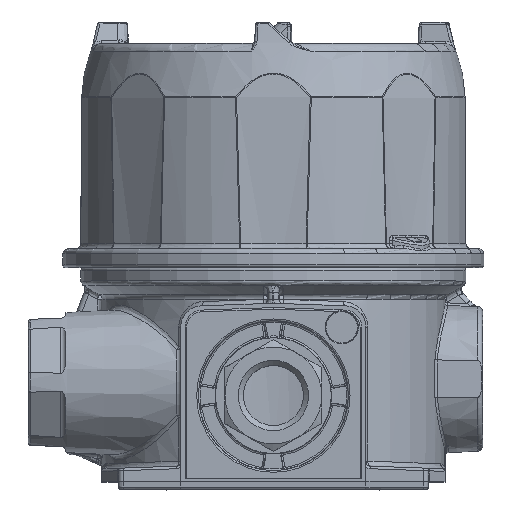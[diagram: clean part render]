
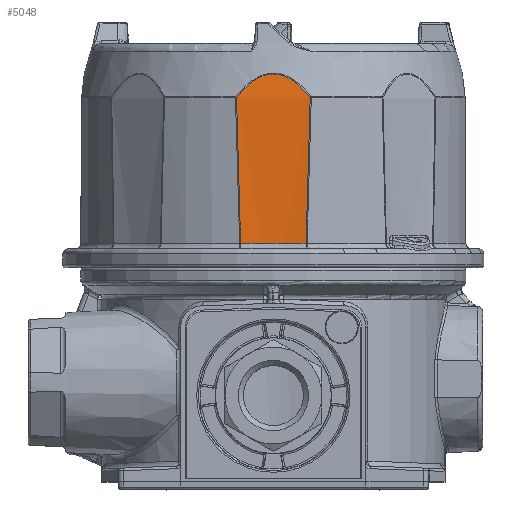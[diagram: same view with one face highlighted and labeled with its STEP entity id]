
A CAD part, top view. The second image highlights one B-rep face of the part: STEP entity #5048.
In plain terms, the highlighted conical face has half-angle 0.5 degrees and reference radius 83.16 mm.
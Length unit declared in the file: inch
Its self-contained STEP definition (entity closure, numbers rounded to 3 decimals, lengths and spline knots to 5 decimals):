
#319 = CARTESIAN_POINT ( 'NONE',  ( 0.14896, 4.81213, 2.20999 ) ) ;
#1453 = CARTESIAN_POINT ( 'NONE',  ( 0.4145, 4.0042, 2.24011 ) ) ;
#4042 = CARTESIAN_POINT ( 'NONE',  ( 0.38208, 2.87234, 2.2461 ) ) ;
#5048 = ADVANCED_FACE ( 'NONE', ( #58970 ), #19179, .F. ) ;
#5064 = CARTESIAN_POINT ( 'NONE',  ( -0.10939, 4.82751, 2.2083 ) ) ;
#5776 = VERTEX_POINT ( 'NONE', #55767 ) ;
#6223 = CARTESIAN_POINT ( 'NONE',  ( 0.31159, 4.70079, 2.22237 ) ) ;
#6720 = CARTESIAN_POINT ( 'NONE',  ( -0.42941, 4.57016, 2.23711 ) ) ;
#9966 = CARTESIAN_POINT ( 'NONE',  ( 0.38207, 2.87205, 2.24611 ) ) ;
#9982 = B_SPLINE_CURVE_WITH_KNOTS ( 'NONE', 3,
 ( #29978, #60808, #28821, #6223, #11014, #17331, #52931, #54481, #319, #72614, #41083, #18491, #41854, #35128, #66703, #59260, #41462, #11397, #5064, #59641, #29594, #53709, #77749, #54089, #23653, #65930, #35909, #60022 ),
 .UNSPECIFIED., .F., .F.,
 ( 4, 2, 2, 2, 2, 2, 2, 2, 2, 2, 2, 2, 2, 4 ),
 ( 0., 0.00336, 0.00673, 0.00841, 0.01009, 0.01177, 0.01261, 0.01345, 0.01514, 0.01682, 0.0185, 0.02018, 0.02355, 0.02691 ),
 .UNSPECIFIED. ) ;
#10451 = VERTEX_POINT ( 'NONE', #52643 ) ;
#11014 = CARTESIAN_POINT ( 'NONE',  ( 0.27897, 4.72997, 2.21911 ) ) ;
#11397 = CARTESIAN_POINT ( 'NONE',  ( -0.08794, 4.83395, 2.20759 ) ) ;
#16004 = VERTEX_POINT ( 'NONE', #6720 ) ;
#16209 = EDGE_CURVE ( 'NONE', #60632, #25727, #22585, .T. ) ;
#16491 = CARTESIAN_POINT ( 'NONE',  ( -0.38208, 2.87234, 2.2461 ) ) ;
#17331 = CARTESIAN_POINT ( 'NONE',  ( 0.22595, 4.76863, 2.21481 ) ) ;
#18491 = CARTESIAN_POINT ( 'NONE',  ( 0.05421, 4.84065, 2.20685 ) ) ;
#18631 = CARTESIAN_POINT ( 'NONE',  ( 0.38208, 2.87234, 2.2461 ) ) ;
#18886 = CARTESIAN_POINT ( 'NONE',  ( -0.39883, 3.43826, 2.24311 ) ) ;
#19179 = CONICAL_SURFACE ( 'NONE', #63386, 3.274, 0.009 ) ;
#21854 = CARTESIAN_POINT ( 'NONE',  ( 0.38206, 2.87175, 2.24611 ) ) ;
#22565 = AXIS2_PLACEMENT_3D ( 'NONE', #56982, #52211, #39198 ) ;
#22585 = B_SPLINE_CURVE_WITH_KNOTS ( 'NONE', 3,
 ( #57202, #43398, #1453, #73374 ),
 .UNSPECIFIED., .F., .F.,
 ( 4, 4 ),
 ( 0., 0.04314 ),
 .UNSPECIFIED. ) ;
#23653 = CARTESIAN_POINT ( 'NONE',  ( -0.31254, 4.69988, 2.22247 ) ) ;
#24769 = EDGE_CURVE ( 'NONE', #10451, #5776, #56651, .T. ) ;
#25532 = EDGE_CURVE ( 'NONE', #16004, #33143, #28487, .T. ) ;
#25727 = VERTEX_POINT ( 'NONE', #53630 ) ;
#27018 = CARTESIAN_POINT ( 'NONE',  ( 0.38206, 2.87145, 2.24611 ) ) ;
#28487 = B_SPLINE_CURVE_WITH_KNOTS ( 'NONE', 3,
 ( #55295, #37497, #18886, #43034 ),
 .UNSPECIFIED., .F., .F.,
 ( 4, 4 ),
 ( 0., 0.04314 ),
 .UNSPECIFIED. ) ;
#28821 = CARTESIAN_POINT ( 'NONE',  ( 0.37332, 4.63801, 2.22942 ) ) ;
#29594 = CARTESIAN_POINT ( 'NONE',  ( -0.17008, 4.8019, 2.21112 ) ) ;
#29978 = CARTESIAN_POINT ( 'NONE',  ( 0.42941, 4.57016, 2.23711 ) ) ;
#32101 = EDGE_CURVE ( 'NONE', #5776, #60632, #59718, .T. ) ;
#33143 = VERTEX_POINT ( 'NONE', #44531 ) ;
#35128 = CARTESIAN_POINT ( 'NONE',  ( 0.02129, 4.84441, 2.20643 ) ) ;
#35909 = CARTESIAN_POINT ( 'NONE',  ( -0.40219, 4.60458, 2.2332 ) ) ;
#37497 = CARTESIAN_POINT ( 'NONE',  ( -0.4145, 4.0042, 2.24011 ) ) ;
#38090 = ORIENTED_EDGE ( 'NONE', *, *, #51868, .T. ) ;
#39198 = DIRECTION ( 'NONE',  ( 0., 0., -1. ) ) ;
#41083 = CARTESIAN_POINT ( 'NONE',  ( 0.08653, 4.83432, 2.20755 ) ) ;
#41462 = CARTESIAN_POINT ( 'NONE',  ( -0.04485, 4.84258, 2.20664 ) ) ;
#41854 = CARTESIAN_POINT ( 'NONE',  ( 0.04332, 4.84226, 2.20667 ) ) ;
#43034 = CARTESIAN_POINT ( 'NONE',  ( -0.38208, 2.87234, 2.2461 ) ) ;
#43398 = CARTESIAN_POINT ( 'NONE',  ( 0.39883, 3.43826, 2.24311 ) ) ;
#44531 = CARTESIAN_POINT ( 'NONE',  ( -0.38208, 2.87234, 2.2461 ) ) ;
#47122 = ORIENTED_EDGE ( 'NONE', *, *, #60164, .T. ) ;
#48245 = CARTESIAN_POINT ( 'NONE',  ( 0., 5.201, 5.47727 ) ) ;
#51868 = EDGE_CURVE ( 'NONE', #25727, #16004, #9982, .T. ) ;
#52211 = DIRECTION ( 'NONE',  ( 0., -1., 0. ) ) ;
#52643 = CARTESIAN_POINT ( 'NONE',  ( -0.38206, 2.87145, 2.24611 ) ) ;
#52931 = CARTESIAN_POINT ( 'NONE',  ( 0.20759, 4.78065, 2.21348 ) ) ;
#53630 = CARTESIAN_POINT ( 'NONE',  ( 0.42941, 4.57016, 2.23711 ) ) ;
#53709 = CARTESIAN_POINT ( 'NONE',  ( -0.20819, 4.78027, 2.21352 ) ) ;
#54089 = CARTESIAN_POINT ( 'NONE',  ( -0.28008, 4.72908, 2.21921 ) ) ;
#54481 = CARTESIAN_POINT ( 'NONE',  ( 0.16907, 4.80243, 2.21107 ) ) ;
#54745 = ORIENTED_EDGE ( 'NONE', *, *, #24769, .T. ) ;
#55295 = CARTESIAN_POINT ( 'NONE',  ( -0.42941, 4.57016, 2.23711 ) ) ;
#55767 = CARTESIAN_POINT ( 'NONE',  ( 0.38206, 2.87145, 2.24611 ) ) ;
#56651 = CIRCLE ( 'NONE', #22565, 3.25367 ) ;
#56982 = CARTESIAN_POINT ( 'NONE',  ( 0., 2.87145, 5.47727 ) ) ;
#57202 = CARTESIAN_POINT ( 'NONE',  ( 0.38208, 2.87234, 2.2461 ) ) ;
#58970 = FACE_OUTER_BOUND ( 'NONE', #77520, .T. ) ;
#59260 = CARTESIAN_POINT ( 'NONE',  ( -0.02303, 4.84485, 2.20639 ) ) ;
#59641 = CARTESIAN_POINT ( 'NONE',  ( -0.15039, 4.81148, 2.21007 ) ) ;
#59718 = B_SPLINE_CURVE_WITH_KNOTS ( 'NONE', 3,
 ( #27018, #21854, #9966, #4042 ),
 .UNSPECIFIED., .F., .F.,
 ( 4, 4 ),
 ( 0., 0.00002 ),
 .UNSPECIFIED. ) ;
#60022 = CARTESIAN_POINT ( 'NONE',  ( -0.42941, 4.57016, 2.23711 ) ) ;
#60164 = EDGE_CURVE ( 'NONE', #33143, #10451, #71809, .T. ) ;
#60632 = VERTEX_POINT ( 'NONE', #18631 ) ;
#60808 = CARTESIAN_POINT ( 'NONE',  ( 0.40211, 4.60468, 2.23319 ) ) ;
#61520 = ORIENTED_EDGE ( 'NONE', *, *, #16209, .T. ) ;
#62218 = CARTESIAN_POINT ( 'NONE',  ( -0.38207, 2.87205, 2.24611 ) ) ;
#63283 = ORIENTED_EDGE ( 'NONE', *, *, #32101, .T. ) ;
#63386 = AXIS2_PLACEMENT_3D ( 'NONE', #48245, #65254, #77061 ) ;
#65254 = DIRECTION ( 'NONE',  ( 0., 1., 0. ) ) ;
#65930 = CARTESIAN_POINT ( 'NONE',  ( -0.37362, 4.63765, 2.22946 ) ) ;
#66703 = CARTESIAN_POINT ( 'NONE',  ( 0.01011, 4.84494, 2.20638 ) ) ;
#67045 = CARTESIAN_POINT ( 'NONE',  ( -0.38206, 2.87145, 2.24611 ) ) ;
#68901 = CARTESIAN_POINT ( 'NONE',  ( -0.38206, 2.87175, 2.24611 ) ) ;
#69925 = ORIENTED_EDGE ( 'NONE', *, *, #25532, .T. ) ;
#71809 = B_SPLINE_CURVE_WITH_KNOTS ( 'NONE', 3,
 ( #16491, #62218, #68901, #67045 ),
 .UNSPECIFIED., .F., .F.,
 ( 4, 4 ),
 ( 0., 0.00002 ),
 .UNSPECIFIED. ) ;
#72614 = CARTESIAN_POINT ( 'NONE',  ( 0.10761, 4.8281, 2.20823 ) ) ;
#73374 = CARTESIAN_POINT ( 'NONE',  ( 0.42941, 4.57016, 2.23711 ) ) ;
#77061 = DIRECTION ( 'NONE',  ( 0., 0., -1. ) ) ;
#77520 = EDGE_LOOP ( 'NONE', ( #54745, #63283, #61520, #38090, #69925, #47122 ) ) ;
#77749 = CARTESIAN_POINT ( 'NONE',  ( -0.22665, 4.76816, 2.21486 ) ) ;
